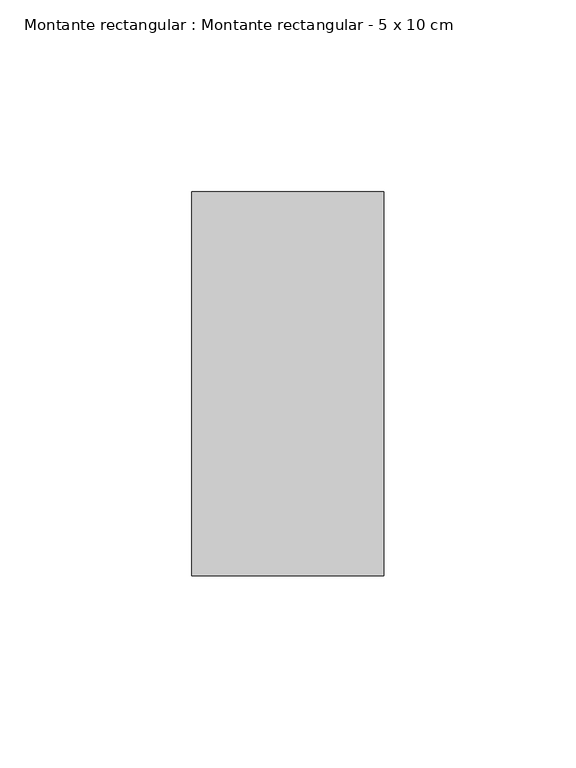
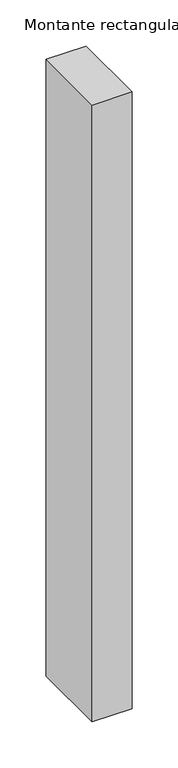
"""IFC4 building model written with IfcOpenShell, lengths in millimetres: member geometry, Montante rectangular : Montante rectangular - 5 x 10 cm."""

import ifcopenshell
import ifcopenshell.guid

model = None  # the IFC model being written
_history = None  # IfcOwnerHistory: only IFC2X3 demands one
_inside = {}  # id of a spatial element -> (the spatial element, [elements in it])
_under = {}  # id of a project, library or spatial element -> (it, [spatial elements below it])
_declared = {}  # id of a project -> (the project, [libraries it declares])
_typed = {}  # id of a type object -> (the type object, [elements of that type])
_made_of = {}  # id of a material, layer set ... -> (it, [elements and type objects made of it])


def new_model(schema):
    """Start an empty IFC model of exactly this schema.

    Asked for "IFC4X3", IfcOpenShell would pick the latest addendum, in which some entities
    have other attributes; the version numbers below select the first issue.
    IFC2X3 requires an IfcOwnerHistory on every rooted entity: one is made here for all.
    """
    global model, _history
    if schema == "IFC4X3":
        model = ifcopenshell.file(schema_version=(4, 3, 0, 0))
    else:
        model = ifcopenshell.file(schema=schema)
    _inside.clear()
    _under.clear()
    _declared.clear()
    _typed.clear()
    _made_of.clear()
    _history = None
    if model.schema == "IFC2X3":
        org = make("IfcOrganization", Name="unknown")
        user = make(
            "IfcPersonAndOrganization",
            ThePerson=make("IfcPerson", FamilyName="unknown"),
            TheOrganization=org,
        )
        app = make(
            "IfcApplication",
            ApplicationDeveloper=org,
            Version="unknown",
            ApplicationFullName="unknown",
            ApplicationIdentifier="unknown",
        )
        _history = make(
            "IfcOwnerHistory",
            OwningUser=user,
            OwningApplication=app,
            ChangeAction="ADDED",
            CreationDate=0,
        )
    return model


def make(cls, **values):
    """One entity of the class cls with the attributes given. An attribute that is None is left unset."""
    return model.create_entity(
        cls, **{name: value for name, value in values.items() if value is not None}
    )


def rooted(cls, **values):
    """An entity with a GlobalId (a new one), such as an element, a storey or a relation."""
    return make(cls, GlobalId=ifcopenshell.guid.new(), OwnerHistory=_history, **values)


def si_unit(unit_type, name, prefix=None):
    """IfcSIUnit, for example si_unit("LENGTHUNIT", "METRE", prefix="MILLI")."""
    return make("IfcSIUnit", UnitType=unit_type, Prefix=prefix, Name=name)


def assignment(units):
    """IfcUnitAssignment: the units of a project."""
    return None if units is None else make("IfcUnitAssignment", Units=units)


def point(xyz):
    """IfcCartesianPoint."""
    return None if xyz is None else make("IfcCartesianPoint", Coordinates=xyz)


def direction(xyz):
    """IfcDirection."""
    return None if xyz is None else make("IfcDirection", DirectionRatios=xyz)


def frame(location, z_axis=None, x_axis=None):
    """IfcAxis2Placement3D, a coordinate frame: its origin and axes. An axis left out is left unset."""
    return make(
        "IfcAxis2Placement3D",
        Location=point(location),
        Axis=direction(z_axis),
        RefDirection=direction(x_axis),
    )


def origin():
    """The frame at (0, 0, 0) with its axes left unset."""
    return frame((0.0, 0.0, 0.0))


def place(relative_to, where):
    """IfcLocalPlacement: puts the frame where relative to a parent placement (None: the world)."""
    return make(
        "IfcLocalPlacement", PlacementRelTo=relative_to, RelativePlacement=where
    )


def context(
    kind, dimensions, precision=None, world=None, true_north=None, identifier=None
):
    """IfcGeometricRepresentationContext, for example the 3D "Model" context."""
    return make(
        "IfcGeometricRepresentationContext",
        ContextIdentifier=identifier,
        ContextType=kind,
        CoordinateSpaceDimension=dimensions,
        Precision=precision,
        WorldCoordinateSystem=world,
        TrueNorth=true_north,
    )


def project(units=None, contexts=None):
    """IfcProject with its units and contexts."""
    return rooted(
        "IfcProject",
        Name="project",
        RepresentationContexts=contexts,
        UnitsInContext=assignment(units),
    )


def spatial(cls, under=None, at=None, **own):
    """A site, building, storey or space (cls), placed at a placement, below another one or the project."""
    s = rooted(cls, ObjectPlacement=at, **own)
    if under is not None:
        _under.setdefault(under.id(), (under, []))[1].append(s)
    return s


def polyline(points):
    """IfcPolyline through the points."""
    return make("IfcPolyline", Points=[point(p) for p in points])


def outline(outer, holes=None, kind="AREA"):
    """IfcArbitraryClosedProfileDef: a profile drawn as a closed curve; with holes, ...WithVoids."""
    if holes is None:
        return make("IfcArbitraryClosedProfileDef", ProfileType=kind, OuterCurve=outer)
    return make(
        "IfcArbitraryProfileDefWithVoids",
        ProfileType=kind,
        OuterCurve=outer,
        InnerCurves=holes,
    )


def extrude(swept, where, along, depth):
    """IfcExtrudedAreaSolid: the profile swept, set in the frame where, extruded along a direction by depth."""
    return make(
        "IfcExtrudedAreaSolid",
        SweptArea=swept,
        Position=where,
        ExtrudedDirection=direction(along),
        Depth=depth,
    )


def shape(context_of_items, identifier, shape_type, items):
    """IfcShapeRepresentation: the items that make up one representation, for example the "Body"."""
    return make(
        "IfcShapeRepresentation",
        ContextOfItems=context_of_items,
        RepresentationIdentifier=identifier,
        RepresentationType=shape_type,
        Items=items,
    )


def source(mapping_origin, context_of_items, identifier, shape_type, items):
    """IfcRepresentationMap: a shape defined once, which mapped items show again and again."""
    return make(
        "IfcRepresentationMap",
        MappingOrigin=mapping_origin,
        MappedRepresentation=shape(context_of_items, identifier, shape_type, items),
    )


def transform(
    local_origin,
    x_axis=None,
    y_axis=None,
    z_axis=None,
    scale=None,
    scale2=None,
    scale3=None,
    uniform=True,
):
    """IfcCartesianTransformationOperator3D, or its non-uniform kind. x_axis, y_axis, z_axis: its Axis1, 2, 3."""
    if uniform:
        return make(
            "IfcCartesianTransformationOperator3D",
            Axis1=direction(x_axis),
            Axis2=direction(y_axis),
            LocalOrigin=point(local_origin),
            Scale=scale,
            Axis3=direction(z_axis),
        )
    return make(
        "IfcCartesianTransformationOperator3DnonUniform",
        Axis1=direction(x_axis),
        Axis2=direction(y_axis),
        LocalOrigin=point(local_origin),
        Scale=scale,
        Axis3=direction(z_axis),
        Scale2=scale2,
        Scale3=scale3,
    )


def mapped(mapping_source, mapping_target):
    """IfcMappedItem: shows the shape of a source again, moved by a transform."""
    return make(
        "IfcMappedItem", MappingSource=mapping_source, MappingTarget=mapping_target
    )


def made_of(thing, what):
    """Note that an element or type object is made of a material, layer set ...; save() writes the relation."""
    if what is not None:
        _made_of.setdefault(what.id(), (what, []))[1].append(thing)
    return thing


def element(
    cls,
    number,
    at=None,
    inside=None,
    cuts=None,
    type_object=None,
    material=None,
    context=None,
    identifier="Body",
    shape_type=None,
    held_by="IfcProductDefinitionShape",
    body=None,
    shapes=None,
    **own,
):
    """One element of the class cls, such as IfcWall. Its Tag is "e" and its number.

    at: its placement. inside: the storey or other place that contains it. cuts: it is an
    opening in that element (IfcRelVoidsElement). A single representation is given by context,
    identifier, shape_type and body (its items); several are given by shapes. held_by: the class
    of the entity that holds the representations. save() writes the other relations.
    """
    e = rooted(cls, Tag="e%d" % number, ObjectPlacement=at, **own)
    if body is not None:
        shapes = [shape(context, identifier, shape_type, body)]
    if shapes is not None:
        e.Representation = make(held_by, Representations=shapes)
    if inside is not None:
        _inside.setdefault(inside.id(), (inside, []))[1].append(e)
    if cuts is not None:
        rooted(
            "IfcRelVoidsElement", RelatingBuildingElement=cuts, RelatedOpeningElement=e
        )
    if type_object is not None:
        _typed.setdefault(type_object.id(), (type_object, []))[1].append(e)
    return made_of(e, material)


def aggregate(whole, parts):
    """IfcRelAggregates: a whole, such as a stair, and the parts it consists of."""
    return rooted("IfcRelAggregates", RelatingObject=whole, RelatedObjects=parts)


def save(model, path):
    """Write the relations noted so far, then the file.

    IfcRelAggregates (storeys below a building ...), IfcRelContainedInSpatialStructure (elements
    in a storey), IfcRelDefinesByType, IfcRelAssociatesMaterial and IfcRelDeclares: one each for
    every whole, place, type object, material and project.
    """
    for whole, parts in _under.values():
        aggregate(whole, parts)
    for where, things in _inside.values():
        rooted(
            "IfcRelContainedInSpatialStructure",
            RelatedElements=things,
            RelatingStructure=where,
        )
    for kind, things in _typed.values():
        rooted("IfcRelDefinesByType", RelatedObjects=things, RelatingType=kind)
    for what, things in _made_of.values():
        rooted("IfcRelAssociatesMaterial", RelatedObjects=things, RelatingMaterial=what)
    for by, libraries in _declared.values():
        rooted("IfcRelDeclares", RelatingContext=by, RelatedDefinitions=libraries)
    model.write(path)


def montante_rectangular_montante_rectangular_5_x_10_cm_f45df562(model_context):
    return source(origin(), model_context, "Body", "SweptSolid", [
        extrude(outline(polyline([(-50.0, -50.0), (-50.0, 50.0), (0.0, 50.0), (0.0, -50.0), (-50.0, -50.0)])), frame((0.0, 0.0, -816.6666667), z_axis=(0.0, 0.0, 1.0), x_axis=(1.0, 0.0, 0.0)), (0.0, 0.0, 1.0), 816.6666667),
    ])


if __name__ == "__main__":
    model = new_model("IFC4")
    model_context = context("Model", 3, world=origin())
    ifc_project = project(units=[si_unit("LENGTHUNIT", "METRE", prefix="MILLI")], contexts=[model_context])
    site = spatial("IfcSite", under=ifc_project)
    building = spatial("IfcBuilding", under=site)
    placement = place(None, origin())
    montante_rectangular_montante_rectangular_5_x_10_cm_shape = montante_rectangular_montante_rectangular_5_x_10_cm_f45df562(model_context)
    element("IfcMember", 1, ObjectType="Montante rectangular : Montante rectangular - 5 x 10 cm", at=placement, inside=building, context=model_context, shape_type="MappedRepresentation", body=[
        mapped(montante_rectangular_montante_rectangular_5_x_10_cm_shape, transform((0.0, 0.0, 0.0), x_axis=(1.0, 0.0, 0.0), y_axis=(0.0, 1.0, 0.0), z_axis=(0.0, 0.0, 1.0))),
    ])
    save(model, "model.ifc")
